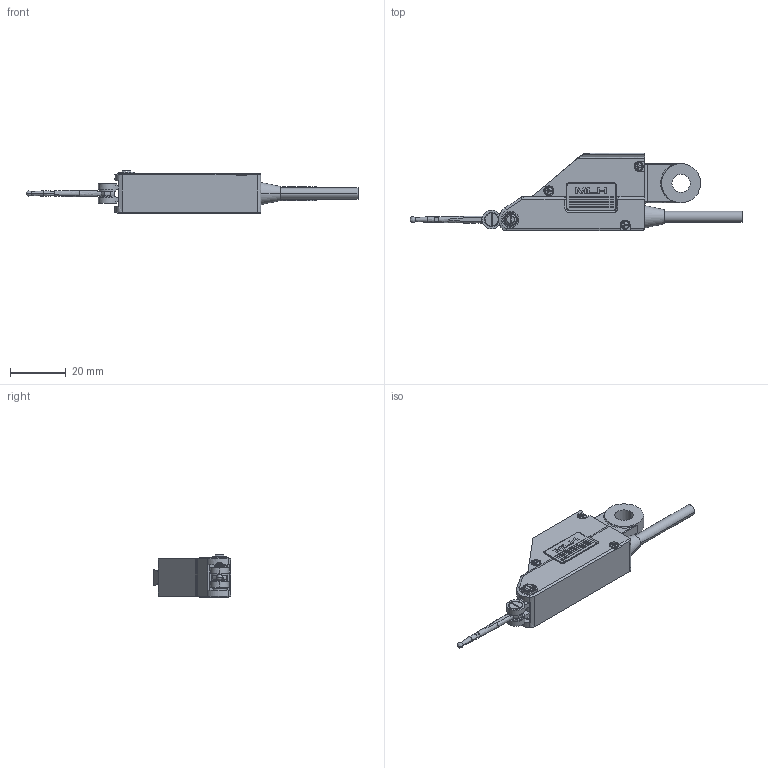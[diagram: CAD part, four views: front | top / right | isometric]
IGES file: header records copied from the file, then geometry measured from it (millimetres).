
Start section: Elysium IGES Interface
Global section: file name: 62HX:\users\kw_rdg\niwanoa\sagyou\01_製品データ\06_EM\519-522.igs; native system: Creo Elements/Direct Modeling 18.1C  24-Feb-2013; preprocessor: Creo Element/Direct IGES_3D V2.2; author: Unknown; organization: Unknown; date: 20170821.184040; units: millimetre
Bounding box: 118.8 x 27.75 x 15.1 mm (x, y, z)
Volume: 16263.3 mm3; surface area: 6386.4 mm2
Topology: 1 solids, 1 shells, 610 faces, 1615 edges, 1041 vertices
Faces by surface type: bspline 610
